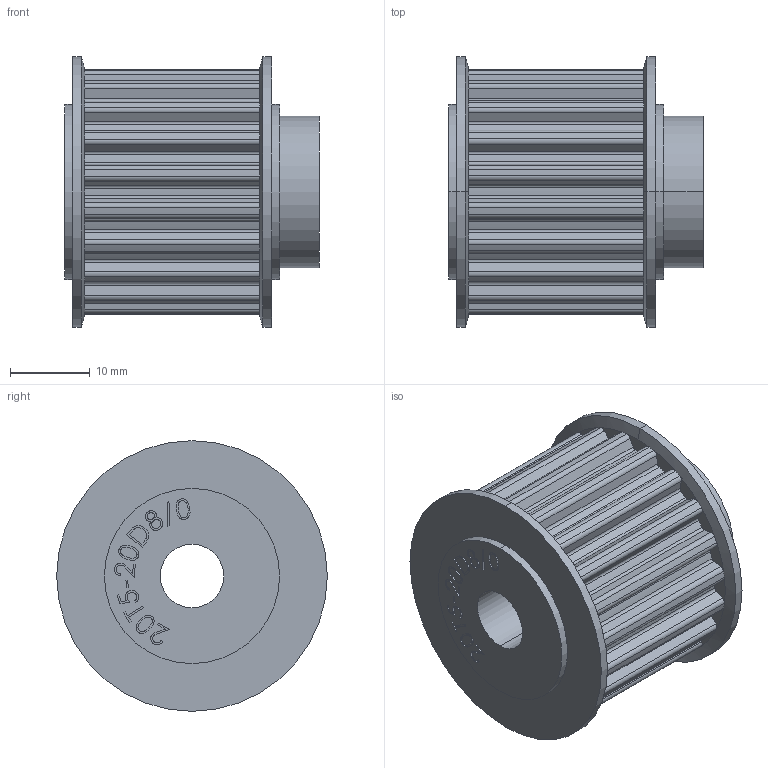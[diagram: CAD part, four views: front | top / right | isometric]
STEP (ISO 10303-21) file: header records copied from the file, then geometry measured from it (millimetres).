
FILE_DESCRIPTION (( 'STEP AP214' ), '1' );
FILE_NAME ('3.2060 Hammashihnapyörä 20T5_20D8_0.STEP', '2026-02-09T07:08:20', ( '' ), ( '' ), 'SwSTEP 2.0', 'SolidWorks 2025', '' );
FILE_SCHEMA (( 'AUTOMOTIVE_DESIGN' ));
Length unit declared in the file: millimetre
Products named in the file (1): 3.2060 Hammashihnapyörä 20T5_20D8_0
Bounding box: 32 x 34 x 34 mm (x, y, z)
Volume: 17878.1 mm3; surface area: 6831.7 mm2
Topology: 1 solids, 1 shells, 394 faces, 1031 edges, 658 vertices
Faces by surface type: cylinder 167, plane 147, bspline 76, cone 4
Entity records: 19942 total; most frequent: CARTESIAN_POINT 10690, ORIENTED_EDGE 2062, DIRECTION 1746, EDGE_CURVE 1031, VERTEX_POINT 658, AXIS2_PLACEMENT_3D 630, VECTOR 486, LINE 486
